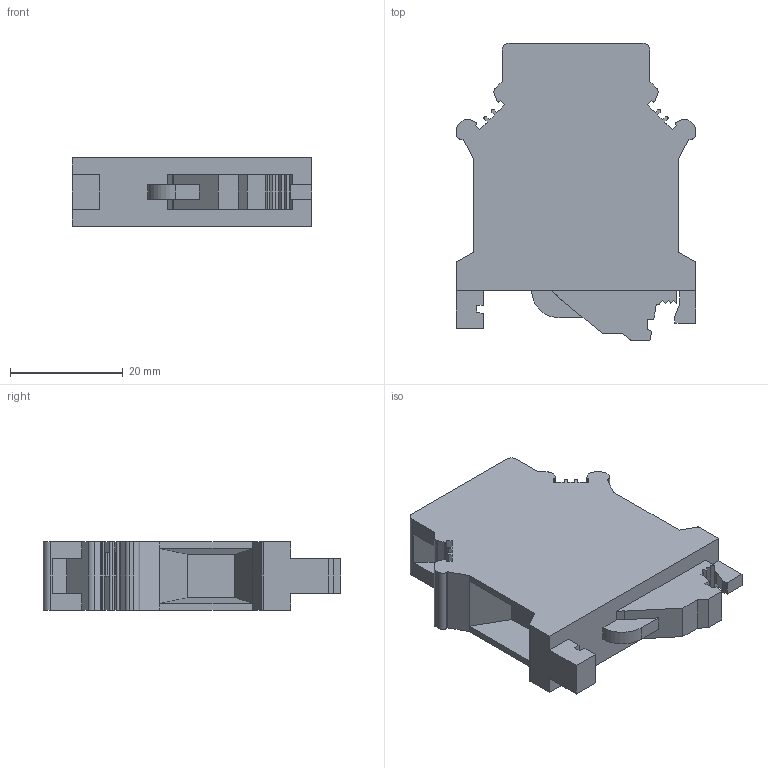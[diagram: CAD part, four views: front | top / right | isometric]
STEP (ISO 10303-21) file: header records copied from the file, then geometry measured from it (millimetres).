
FILE_DESCRIPTION((''),'2;1');
FILE_NAME('PC-16-ASM_ASM','2020-05-28T',('Administrator'),(''),'PRO/ENGINEER BY PARAMETRIC TECHNOLOGY CORPORATION, 2014000','PRO/ENGINEER BY PARAMETRIC TECHNOLOGY CORPORATION, 2014000','');
FILE_SCHEMA(('CONFIG_CONTROL_DESIGN'));
Length unit declared in the file: millimetre
Products named in the file (1): PC-16-ASM_ASM
Bounding box: 42.5 x 52.8 x 12.2 mm (x, y, z)
Volume: 17831.6 mm3; surface area: 6748.6 mm2
Topology: 1 solids, 1 shells, 197 faces, 587 edges, 400 vertices
Faces by surface type: plane 158, cylinder 39
Entity records: 6637 total; most frequent: CARTESIAN_POINT 1184, ORIENTED_EDGE 1174, DIRECTION 1071, EDGE_CURVE 587, VECTOR 497, LINE 497, VERTEX_POINT 400, AXIS2_PLACEMENT_3D 287
